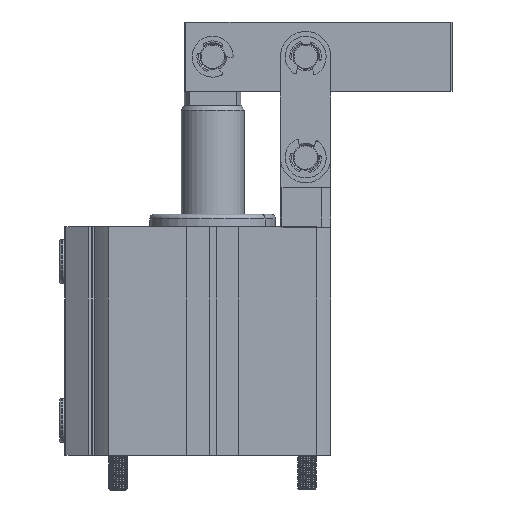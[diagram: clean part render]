
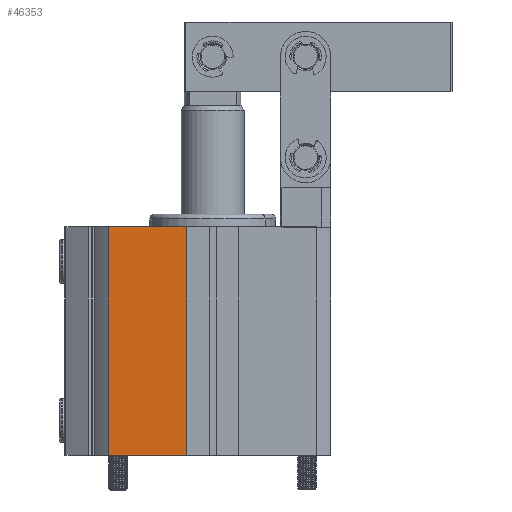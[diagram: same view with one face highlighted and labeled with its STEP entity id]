
A CAD part, front view. The second image highlights one B-rep face of the part: STEP entity #46353.
In plain terms, the highlighted planar face has unit normal (0, -1, 0).
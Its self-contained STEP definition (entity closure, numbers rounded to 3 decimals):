
#32293 = PLANE('',#32294);
#32294 = AXIS2_PLACEMENT_3D('',#32295,#32296,#32297);
#32295 = CARTESIAN_POINT('',(55.464,44.575,72.5));
#32296 = DIRECTION('',(0.,0.,1.));
#32297 = DIRECTION('',(1.,0.,-0.));
#35925 = PLANE('',#35926);
#35926 = AXIS2_PLACEMENT_3D('',#35927,#35928,#35929);
#35927 = CARTESIAN_POINT('',(9.464,54.036,0.));
#35928 = DIRECTION('',(0.,0.,1.));
#35929 = DIRECTION('',(1.,0.,-0.));
#45242 = VERTEX_POINT('',#45243);
#45243 = CARTESIAN_POINT('',(47.214,7.075,0.));
#45257 = PLANE('',#45258);
#45258 = AXIS2_PLACEMENT_3D('',#45259,#45260,#45261);
#45259 = CARTESIAN_POINT('',(47.214,7.075,82.5));
#45260 = DIRECTION('',(-1.,0.,0.));
#45261 = DIRECTION('',(0.,0.,1.));
#45269 = EDGE_CURVE('',#45270,#45242,#45272,.T.);
#45270 = VERTEX_POINT('',#45271);
#45271 = CARTESIAN_POINT('',(22.393,7.075,0.));
#45272 = SURFACE_CURVE('',#45273,(#45277,#45284),.PCURVE_S1.);
#45273 = LINE('',#45274,#45275);
#45274 = CARTESIAN_POINT('',(47.214,7.075,0.));
#45275 = VECTOR('',#45276,1.);
#45276 = DIRECTION('',(1.,-0.,-0.));
#45277 = PCURVE('',#35925,#45278);
#45278 = DEFINITIONAL_REPRESENTATION('',(#45279),#45283);
#45279 = LINE('',#45280,#45281);
#45280 = CARTESIAN_POINT('',(37.75,-46.961));
#45281 = VECTOR('',#45282,1.);
#45282 = DIRECTION('',(1.,-0.));
#45283 = ( GEOMETRIC_REPRESENTATION_CONTEXT(2) 
PARAMETRIC_REPRESENTATION_CONTEXT() REPRESENTATION_CONTEXT('2D SPACE',''
  ) );
#45284 = PCURVE('',#45285,#45290);
#45285 = PLANE('',#45286);
#45286 = AXIS2_PLACEMENT_3D('',#45287,#45288,#45289);
#45287 = CARTESIAN_POINT('',(47.214,7.075,82.5));
#45288 = DIRECTION('',(0.,1.,-0.));
#45289 = DIRECTION('',(0.,0.,1.));
#45290 = DEFINITIONAL_REPRESENTATION('',(#45291),#45295);
#45291 = LINE('',#45292,#45293);
#45292 = CARTESIAN_POINT('',(-82.5,0.));
#45293 = VECTOR('',#45294,1.);
#45294 = DIRECTION('',(0.,1.));
#45295 = ( GEOMETRIC_REPRESENTATION_CONTEXT(2) 
PARAMETRIC_REPRESENTATION_CONTEXT() REPRESENTATION_CONTEXT('2D SPACE',''
  ) );
#45314 = CYLINDRICAL_SURFACE('',#45315,50.);
#45315 = AXIS2_PLACEMENT_3D('',#45316,#45317,#45318);
#45316 = CARTESIAN_POINT('',(55.464,44.575,82.5));
#45317 = DIRECTION('',(-0.,-0.,-1.));
#45318 = DIRECTION('',(-1.,0.,0.));
#46307 = EDGE_CURVE('',#46308,#45270,#46310,.T.);
#46308 = VERTEX_POINT('',#46309);
#46309 = CARTESIAN_POINT('',(22.393,7.075,72.5));
#46310 = SURFACE_CURVE('',#46311,(#46315,#46322),.PCURVE_S1.);
#46311 = LINE('',#46312,#46313);
#46312 = CARTESIAN_POINT('',(22.393,7.075,82.5));
#46313 = VECTOR('',#46314,1.);
#46314 = DIRECTION('',(-0.,-0.,-1.));
#46315 = PCURVE('',#45314,#46316);
#46316 = DEFINITIONAL_REPRESENTATION('',(#46317),#46321);
#46317 = LINE('',#46318,#46319);
#46318 = CARTESIAN_POINT('',(5.435,0.));
#46319 = VECTOR('',#46320,1.);
#46320 = DIRECTION('',(0.,1.));
#46321 = ( GEOMETRIC_REPRESENTATION_CONTEXT(2) 
PARAMETRIC_REPRESENTATION_CONTEXT() REPRESENTATION_CONTEXT('2D SPACE',''
  ) );
#46322 = PCURVE('',#45285,#46323);
#46323 = DEFINITIONAL_REPRESENTATION('',(#46324),#46328);
#46324 = LINE('',#46325,#46326);
#46325 = CARTESIAN_POINT('',(0.,-24.822));
#46326 = VECTOR('',#46327,1.);
#46327 = DIRECTION('',(-1.,0.));
#46328 = ( GEOMETRIC_REPRESENTATION_CONTEXT(2) 
PARAMETRIC_REPRESENTATION_CONTEXT() REPRESENTATION_CONTEXT('2D SPACE',''
  ) );
#46353 = ADVANCED_FACE('',(#46354),#45285,.F.);
#46354 = FACE_BOUND('',#46355,.T.);
#46355 = EDGE_LOOP('',(#46356,#46379,#46400,#46401));
#46356 = ORIENTED_EDGE('',*,*,#46357,.F.);
#46357 = EDGE_CURVE('',#46358,#45242,#46360,.T.);
#46358 = VERTEX_POINT('',#46359);
#46359 = CARTESIAN_POINT('',(47.214,7.075,72.5));
#46360 = SURFACE_CURVE('',#46361,(#46365,#46372),.PCURVE_S1.);
#46361 = LINE('',#46362,#46363);
#46362 = CARTESIAN_POINT('',(47.214,7.075,82.5));
#46363 = VECTOR('',#46364,1.);
#46364 = DIRECTION('',(-0.,-0.,-1.));
#46365 = PCURVE('',#45285,#46366);
#46366 = DEFINITIONAL_REPRESENTATION('',(#46367),#46371);
#46367 = LINE('',#46368,#46369);
#46368 = CARTESIAN_POINT('',(0.,0.));
#46369 = VECTOR('',#46370,1.);
#46370 = DIRECTION('',(-1.,0.));
#46371 = ( GEOMETRIC_REPRESENTATION_CONTEXT(2) 
PARAMETRIC_REPRESENTATION_CONTEXT() REPRESENTATION_CONTEXT('2D SPACE',''
  ) );
#46372 = PCURVE('',#45257,#46373);
#46373 = DEFINITIONAL_REPRESENTATION('',(#46374),#46378);
#46374 = LINE('',#46375,#46376);
#46375 = CARTESIAN_POINT('',(0.,0.));
#46376 = VECTOR('',#46377,1.);
#46377 = DIRECTION('',(-1.,0.));
#46378 = ( GEOMETRIC_REPRESENTATION_CONTEXT(2) 
PARAMETRIC_REPRESENTATION_CONTEXT() REPRESENTATION_CONTEXT('2D SPACE',''
  ) );
#46379 = ORIENTED_EDGE('',*,*,#46380,.F.);
#46380 = EDGE_CURVE('',#46308,#46358,#46381,.T.);
#46381 = SURFACE_CURVE('',#46382,(#46386,#46393),.PCURVE_S1.);
#46382 = LINE('',#46383,#46384);
#46383 = CARTESIAN_POINT('',(47.214,7.075,72.5));
#46384 = VECTOR('',#46385,1.);
#46385 = DIRECTION('',(1.,-0.,-0.));
#46386 = PCURVE('',#45285,#46387);
#46387 = DEFINITIONAL_REPRESENTATION('',(#46388),#46392);
#46388 = LINE('',#46389,#46390);
#46389 = CARTESIAN_POINT('',(-10.,0.));
#46390 = VECTOR('',#46391,1.);
#46391 = DIRECTION('',(0.,1.));
#46392 = ( GEOMETRIC_REPRESENTATION_CONTEXT(2) 
PARAMETRIC_REPRESENTATION_CONTEXT() REPRESENTATION_CONTEXT('2D SPACE',''
  ) );
#46393 = PCURVE('',#32293,#46394);
#46394 = DEFINITIONAL_REPRESENTATION('',(#46395),#46399);
#46395 = LINE('',#46396,#46397);
#46396 = CARTESIAN_POINT('',(-8.25,-37.5));
#46397 = VECTOR('',#46398,1.);
#46398 = DIRECTION('',(1.,-0.));
#46399 = ( GEOMETRIC_REPRESENTATION_CONTEXT(2) 
PARAMETRIC_REPRESENTATION_CONTEXT() REPRESENTATION_CONTEXT('2D SPACE',''
  ) );
#46400 = ORIENTED_EDGE('',*,*,#46307,.T.);
#46401 = ORIENTED_EDGE('',*,*,#45269,.T.);
